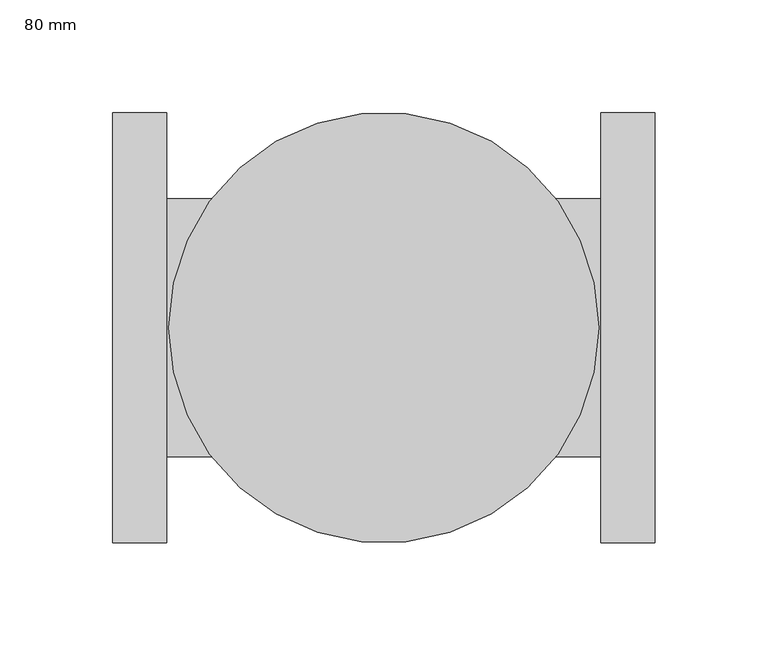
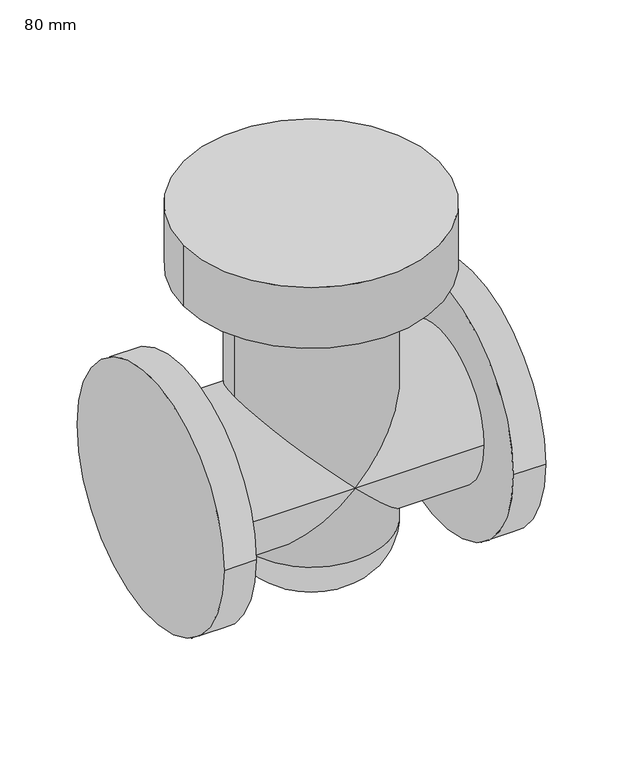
"""IFC4 building model written with IfcOpenShell, lengths in millimetres: valve geometry, Clapet anti-retour - 50-300 mm - Bridé : 80 mm."""

from ifc_helpers import new_model, si_unit, point, frame, origin, place, context, project, spatial, circle_curve, ellipse_curve, trimmed, source, transform, mapped, element, save
from ifc_brep_helpers import plane_surface, cylinder_surface, revolved_surface, advanced_brep


def valve_80_mm_5b8f5b0f(model_context):
    return source(origin(), model_context, "Body", "AdvancedBrep", [
        advanced_brep(
        [(96.4, -57.3, 0.0), (0.0, -57.3, 0.0), (57.3, 0.0, -57.3), (0.0, 57.3, 0.0), (96.4, 57.3, 0.0), (-96.4, -57.3, 0.0), (-96.4, 57.3, 0.0), (-57.3, 0.0, -57.3), (57.3, 0.0, 57.3), (-57.3, 0.0, 57.3), (-57.3, 0.0, 142.8), (57.3, 0.0, 142.8), (-95.5, 0.0, 191.0), (95.5, 0.0, 191.0), (-95.5, 0.0, 142.8), (95.5, 0.0, 142.8), (120.5, -95.5, 0.0), (120.5, 95.5, 0.0), (96.4, -95.5, 0.0), (96.4, 95.5, 0.0), (-96.4, -95.5, 0.0), (-96.4, 95.5, 0.0), (-120.5, -95.5, 0.0), (-120.5, 95.5, 0.0), (19.2, 0.0, -95.4), (-19.2, 0.0, -95.4), (0.0, 0.0, -95.4)],
        [
            (0, 1),
            (1, 2, ellipse_curve(frame((0.0, 0.0, 0.0), z_axis=(0.7071067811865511, 0.0, 0.7071067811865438), x_axis=(0.7071067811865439, 0.0, -0.7071067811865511)), 81.0344371, 57.3)),
            (2, 3, ellipse_curve(frame((0.0, 0.0, 0.0), z_axis=(0.7071067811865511, 0.0, 0.7071067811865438), x_axis=(0.7071067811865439, 0.0, -0.7071067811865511)), 81.0344371, 57.3)),
            (3, 4),
            (4, 0, circle_curve(frame((96.4, 0.0, 0.0), z_axis=(-1.0, 0.0, 0.0), x_axis=(0.0, 1.0, 0.0)), 57.3)),
            (1, 5),
            (5, 6, circle_curve(frame((-96.4, 0.0, 0.0), z_axis=(1.0, 0.0, 0.0), x_axis=(0.0, 1.0, 0.0)), 57.3)),
            (6, 3),
            (3, 7, ellipse_curve(frame((0.0, 0.0, 0.0), z_axis=(-0.7071067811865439, 0.0, 0.7071067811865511), x_axis=(0.7071067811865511, 0.0, 0.7071067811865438)), 81.0344371, 57.3)),
            (7, 1, ellipse_curve(frame((0.0, 0.0, 0.0), z_axis=(-0.7071067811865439, 0.0, 0.7071067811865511), x_axis=(0.7071067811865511, 0.0, 0.7071067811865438)), 81.0344371, 57.3)),
            (0, 4, circle_curve(frame((96.4, 0.0, 0.0), z_axis=(-1.0, 0.0, 0.0), x_axis=(0.0, 1.0, 0.0)), 57.3)),
            (3, 8, ellipse_curve(frame((0.0, 0.0, 0.0), z_axis=(0.7071067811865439, 0.0, -0.7071067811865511), x_axis=(0.7071067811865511, 0.0, 0.7071067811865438)), 81.0344371, 57.3)),
            (8, 1, ellipse_curve(frame((0.0, 0.0, 0.0), z_axis=(0.7071067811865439, 0.0, -0.7071067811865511), x_axis=(0.7071067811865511, 0.0, 0.7071067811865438)), 81.0344371, 57.3)),
            (1, 9, ellipse_curve(frame((0.0, 0.0, 0.0), z_axis=(-0.7071067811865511, 0.0, -0.7071067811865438), x_axis=(0.7071067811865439, 0.0, -0.7071067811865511)), 81.0344371, 57.3)),
            (9, 3, ellipse_curve(frame((0.0, 0.0, 0.0), z_axis=(-0.7071067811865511, 0.0, -0.7071067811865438), x_axis=(0.7071067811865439, 0.0, -0.7071067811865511)), 81.0344371, 57.3)),
            (6, 5, circle_curve(frame((-96.4, 0.0, 0.0), z_axis=(1.0, 0.0, 0.0), x_axis=(0.0, 1.0, 0.0)), 57.3)),
            (7, 2, circle_curve(frame((0.0, 0.0, -57.3), z_axis=(0.0, 0.0, 1.0), x_axis=(1.0, 0.0, 0.0)), 57.3)),
            (10, 9),
            (8, 11),
            (11, 10, circle_curve(frame((0.0, 0.0, 142.8), z_axis=(0.0, 0.0, -1.0), x_axis=(1.0, 0.0, 0.0)), 57.3)),
            (2, 7, circle_curve(frame((0.0, 0.0, -57.3), z_axis=(0.0, 0.0, 1.0), x_axis=(1.0, 0.0, 0.0)), 57.3)),
            (10, 11, circle_curve(frame((0.0, 0.0, 142.8), z_axis=(0.0, 0.0, -1.0), x_axis=(1.0, 0.0, 0.0)), 57.3)),
            (12, 13, circle_curve(frame((0.0, 0.0, 191.0), z_axis=(0.0, 0.0, 1.0), x_axis=(1.0, 0.0, 0.0)), 95.5)),
            (13, 12, circle_curve(frame((0.0, 0.0, 191.0), z_axis=(0.0, 0.0, 1.0), x_axis=(1.0, 0.0, 0.0)), 95.5)),
            (14, 15, circle_curve(frame((0.0, 0.0, 142.8), z_axis=(0.0, 0.0, -1.0), x_axis=(1.0, 0.0, 0.0)), 95.5)),
            (15, 14, circle_curve(frame((0.0, 0.0, 142.8), z_axis=(0.0, 0.0, -1.0), x_axis=(1.0, 0.0, 0.0)), 95.5)),
            (12, 14),
            (15, 13),
            (16, 17, circle_curve(frame((120.5, 0.0, 0.0), z_axis=(1.0, 0.0, 0.0), x_axis=(0.0, 1.0, 0.0)), 95.5)),
            (17, 16, circle_curve(frame((120.5, 0.0, 0.0), z_axis=(1.0, 0.0, 0.0), x_axis=(0.0, 1.0, 0.0)), 95.5)),
            (18, 19, circle_curve(frame((96.4, 0.0, 0.0), z_axis=(-1.0, 0.0, 0.0), x_axis=(0.0, 1.0, 0.0)), 95.5)),
            (19, 18, circle_curve(frame((96.4, 0.0, 0.0), z_axis=(-1.0, 0.0, 0.0), x_axis=(0.0, 1.0, 0.0)), 95.5)),
            (16, 18),
            (19, 17),
            (20, 21, circle_curve(frame((-96.4, 0.0, 0.0), z_axis=(1.0, 0.0, 0.0), x_axis=(0.0, 1.0, 0.0)), 95.5)),
            (21, 20, circle_curve(frame((-96.4, 0.0, 0.0), z_axis=(1.0, 0.0, 0.0), x_axis=(0.0, 1.0, 0.0)), 95.5)),
            (22, 23, circle_curve(frame((-120.5, 0.0, 0.0), z_axis=(-1.0, 0.0, 0.0), x_axis=(0.0, 1.0, 0.0)), 95.5)),
            (23, 22, circle_curve(frame((-120.5, 0.0, 0.0), z_axis=(-1.0, 0.0, 0.0), x_axis=(0.0, 1.0, 0.0)), 95.5)),
            (20, 22),
            (23, 21),
            (24, 25, circle_curve(frame((0.0, 0.0, -95.4), z_axis=(0.0, 0.0, 1.0), x_axis=(-1.0, 0.0, 0.0)), 19.2)),
            (25, 7, circle_curve(frame((-19.2, 0.0, -57.3), z_axis=(0.0, 1.0, 0.0), x_axis=(1.0, 0.0, 0.0)), 38.1)),
            (2, 24, circle_curve(frame((19.2, 0.0, -57.3), z_axis=(0.0, 1.0, 0.0), x_axis=(-1.0, 0.0, 0.0)), 38.1)),
            (25, 24, circle_curve(frame((0.0, 0.0, -95.4), z_axis=(0.0, 0.0, 1.0), x_axis=(-1.0, 0.0, 0.0)), 19.2)),
            (24, 26),
            (26, 25),
        ],
        [
            cylinder_surface(frame((-96.4, 0.0, 0.0), z_axis=(1.0, 0.0, 0.0), x_axis=(0.0, 1.0, 0.0)), 57.3),
            cylinder_surface(frame((0.0, 0.0, -57.3), z_axis=(0.0, 0.0, 1.0), x_axis=(1.0, 0.0, 0.0)), 57.3),
            plane_surface(frame((95.5, 0.0, 191.0), z_axis=(0.0, 0.0, 1.0), x_axis=(0.0, 1.0, 0.0))),
            plane_surface(frame((95.5, 0.0, 142.8), z_axis=(0.0, 0.0, -1.0), x_axis=(0.0, -1.0, 0.0))),
            cylinder_surface(frame((0.0, 0.0, 142.8), z_axis=(0.0, 0.0, 1.0), x_axis=(1.0, 0.0, 0.0)), 95.5),
            plane_surface(frame((120.5, 95.5, 0.0), z_axis=(1.0, 0.0, 0.0), x_axis=(0.0, 0.0, 1.0))),
            plane_surface(frame((96.4, 95.5, 0.0), z_axis=(-1.0, 0.0, 0.0), x_axis=(0.0, 0.0, -1.0))),
            cylinder_surface(frame((96.4, 0.0, 0.0), z_axis=(1.0, 0.0, 0.0), x_axis=(0.0, 1.0, 0.0)), 95.5),
            plane_surface(frame((-96.4, 95.5, 0.0), z_axis=(1.0, 0.0, 0.0), x_axis=(0.0, 0.0, 1.0))),
            plane_surface(frame((-120.5, 95.5, 0.0), z_axis=(-1.0, 0.0, 0.0), x_axis=(0.0, 0.0, -1.0))),
            cylinder_surface(frame((-120.5, 0.0, 0.0), z_axis=(1.0, 0.0, 0.0), x_axis=(0.0, 1.0, 0.0)), 95.5),
            revolved_surface(trimmed(ellipse_curve(frame((-19.2, 0.0, -57.3), z_axis=(0.0, -1.0, 0.0), x_axis=(1.0, 0.0, 0.0)), 38.1, 38.1), [point((-57.3, 0.0, -57.3))], [point((-19.2, 0.0, -95.4))], True, "CARTESIAN"), (0.0, 0.0, -114.45), (0.0, 0.0, -1.0)),
            plane_surface(frame((0.0, 0.0, -95.4), z_axis=(0.0, 0.0, -1.0), x_axis=(-1.0, 0.0, 0.0))),
        ],
        [
            (0, [[1, 2, 3, 4, 5]]),
            (0, [[6, 7, 8, 9, 10]]),
            (0, [[-1, 11, -4, 12, 13]]),
            (0, [[-6, 14, 15, -8, 16]]),
            (1, [[-10, 17, -2]]),
            (1, [[18, -14, -13, 19, 20]]),
            (1, [[-9, -3, 21]]),
            (1, [[-18, 22, -19, -12, -15]]),
            (2, [[23, 24]]),
            (3, [[25, 26], [-20, -22]]),
            (4, [[-23, 27, -26, 28]]),
            (4, [[-24, -28, -25, -27]]),
            (5, [[29, 30]]),
            (6, [[31, 32], [-5, -11]]),
            (7, [[-29, 33, -32, 34]]),
            (7, [[-30, -34, -31, -33]]),
            (8, [[35, 36], [-7, -16]]),
            (9, [[37, 38]]),
            (10, [[-35, 39, -38, 40]]),
            (10, [[-36, -40, -37, -39]]),
            (11, [[41, 42, -21, 43]]),
            (11, [[-42, 44, -43, -17]]),
            (12, [[-41, 45, 46]]),
            (12, [[-44, -46, -45]]),
        ],
    ),
    ])


if __name__ == "__main__":
    model = new_model("IFC4")
    model_context = context("Model", 3, world=origin())
    ifc_project = project(units=[si_unit("LENGTHUNIT", "METRE", prefix="MILLI")], contexts=[model_context])
    site = spatial("IfcSite", under=ifc_project)
    building = spatial("IfcBuilding", under=site)
    placement = place(None, origin())
    valve_80_mm_shape = valve_80_mm_5b8f5b0f(model_context)
    element("IfcValve", 1, ObjectType="Clapet anti-retour - 50-300 mm - Bridé : 80 mm", at=placement, inside=building, context=model_context, shape_type="MappedRepresentation", body=[
        mapped(valve_80_mm_shape, transform((0.0, 0.0, 0.0), x_axis=(1.0, 0.0, 0.0), y_axis=(0.0, 1.0, 0.0), z_axis=(0.0, 0.0, 1.0))),
    ])
    save(model, "model.ifc")
